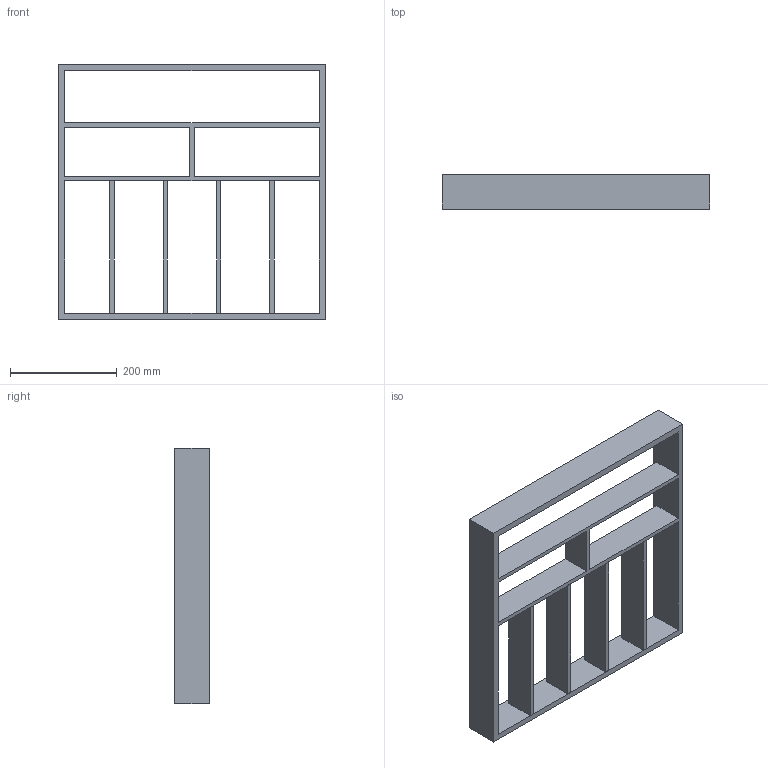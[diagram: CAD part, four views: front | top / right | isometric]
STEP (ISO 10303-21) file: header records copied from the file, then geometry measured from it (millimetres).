
FILE_DESCRIPTION (( 'STEP AP214' ), '1' );
FILE_NAME ('Vario Besteck NL500_B600_19 mm_Buche.step', '2010-11-04T08:33:10', ( 'grass' ), ( '' ), 'SwSTEP 2.0', 'SolidWorks 2010', '' );
FILE_SCHEMA (( 'AUTOMOTIVE_DESIGN' ));
Length unit declared in the file: millimetre
Products named in the file (1): Vario Besteck NL500_B600_19 mm_Buche
Bounding box: 502 x 65 x 479 mm (x, y, z)
Volume: 2424984 mm3; surface area: 561388 mm2
Topology: 5 solids, 5 shells, 43 faces, 108 edges, 72 vertices
Faces by surface type: plane 43
Entity records: 1348 total; most frequent: CARTESIAN_POINT 224, ORIENTED_EDGE 216, DIRECTION 196, EDGE_CURVE 108, VECTOR 108, LINE 108, VERTEX_POINT 72, EDGE_LOOP 48
